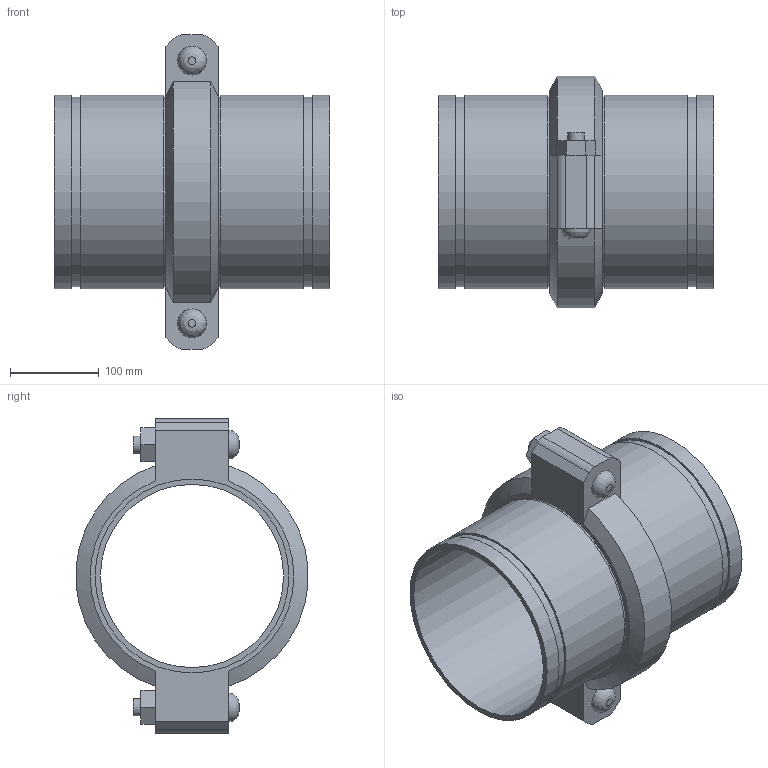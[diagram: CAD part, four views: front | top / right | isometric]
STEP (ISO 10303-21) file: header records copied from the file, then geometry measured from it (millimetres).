
FILE_DESCRIPTION(/* description */ ('VIC EXPANSION JOINT 1 COUPLING EXPANDED STYLE 155 (OGS)','CAx-IF Rec.Pracs.---Representation and Presentation of Product Manufacturing Information (PMI)---4.0---2014-10-13'),/* implementation_level */ '2;1');
FILE_NAME(/* name */ 'C:\Users\kkamble\AppData\Roaming\Autodesk\ApplicationPlugins\Victaulic.Temp\A694\Victaulic_IPS_Expansion Joint_Expanded_1 Coupling_Style 155 (OGS)_8 (200).stp',/* time_stamp */ '2021-06-26T23:48:02+02:00',/* author */ ('kkamble'),/* organization */ ('Victaulic'),/* preprocessor_version */ 'ST-DEVELOPER v17.2',/* originating_system */ 'Autodesk Inventor 2019',/* authorisation */ '');
FILE_SCHEMA (('AP242_MANAGED_MODEL_BASED_3D_ENGINEERING_MIM_LF { 1 0 10303 442 1 1 4 }'));
Length unit declared in the file: inch
Products named in the file (3): 155-08.0; Nipple-08.0; 075-08.0
Assembly tree (3 placements, depth 2):
  155-08.0
    Nipple-08.0  x2
    075-08.0
Bounding box: 311.15 x 261.72 x 354.84 mm (x, y, z)
Volume: 2563550.3 mm3; surface area: 611698.1 mm2
Topology: 3 solids, 5 shells, 81 faces, 193 edges, 138 vertices
Faces by surface type: plane 48, cylinder 27, cone 4, bspline 2
Full cylindrical faces by diameter (mm): 19.05 x4, 21.209 x2, 206.985 x2, 212.725 x1, 214.401 x4, 219.075 x8
Entity records: 2301 total; most frequent: CARTESIAN_POINT 420, DIRECTION 369, ORIENTED_EDGE 326, EDGE_CURVE 163, AXIS2_PLACEMENT_3D 141, VERTEX_POINT 114, EDGE_LOOP 89, LINE 87
